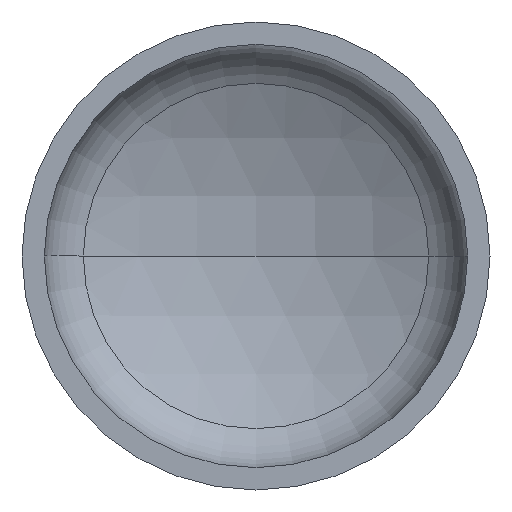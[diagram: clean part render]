
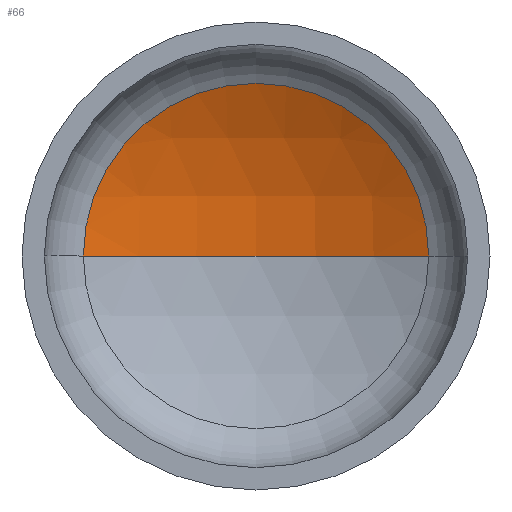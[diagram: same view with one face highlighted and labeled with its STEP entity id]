
A CAD part, front view. The second image highlights one B-rep face of the part: STEP entity #66.
In plain terms, the highlighted spherical face has radius 284 mm.
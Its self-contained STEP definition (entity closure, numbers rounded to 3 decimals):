
#2 = DIRECTION ( 'NONE',  ( -1., 0., 0. ) ) ;
#7 = DIRECTION ( 'NONE',  ( 1., 0., 0. ) ) ;
#11 = DIRECTION ( 'NONE',  ( 0., 0., 1. ) ) ;
#14 = SPHERICAL_SURFACE ( 'NONE', #132, 284. ) ;
#22 = CARTESIAN_POINT ( 'NONE',  ( 0., -148.094, 0. ) ) ;
#38 = VERTEX_POINT ( 'NONE', #248 ) ;
#66 = ADVANCED_FACE ( 'NONE', ( #189 ), #14, .F. ) ;
#85 = ORIENTED_EDGE ( 'NONE', *, *, #153, .T. ) ;
#90 = ORIENTED_EDGE ( 'NONE', *, *, #157, .F. ) ;
#94 = VERTEX_POINT ( 'NONE', #231 ) ;
#99 = AXIS2_PLACEMENT_3D ( 'NONE', #22, #11, #7 ) ;
#105 = AXIS2_PLACEMENT_3D ( 'NONE', #139, #318, #2 ) ;
#106 = EDGE_LOOP ( 'NONE', ( #90, #122, #85 ) ) ;
#109 = AXIS2_PLACEMENT_3D ( 'NONE', #214, #197, #198 ) ;
#122 = ORIENTED_EDGE ( 'NONE', *, *, #156, .T. ) ;
#132 = AXIS2_PLACEMENT_3D ( 'NONE', #246, #243, #242 ) ;
#139 = CARTESIAN_POINT ( 'NONE',  ( 0., -148.094, 0. ) ) ;
#153 = EDGE_CURVE ( 'NONE', #38, #196, #234, .T. ) ;
#156 = EDGE_CURVE ( 'NONE', #94, #38, #170, .T. ) ;
#157 = EDGE_CURVE ( 'NONE', #94, #196, #346, .T. ) ;
#170 = CIRCLE ( 'NONE', #105, 284. ) ;
#189 = FACE_OUTER_BOUND ( 'NONE', #106, .T. ) ;
#196 = VERTEX_POINT ( 'NONE', #267 ) ;
#197 = DIRECTION ( 'NONE',  ( 0., -1., 0. ) ) ;
#198 = DIRECTION ( 'NONE',  ( 1., 0., 0. ) ) ;
#214 = CARTESIAN_POINT ( 'NONE',  ( 0., 103.778, 0. ) ) ;
#231 = CARTESIAN_POINT ( 'NONE',  ( 0., 135.906, 0. ) ) ;
#234 = CIRCLE ( 'NONE', #109, 131.21 ) ;
#242 = DIRECTION ( 'NONE',  ( -1., 0., 0. ) ) ;
#243 = DIRECTION ( 'NONE',  ( 0., 0., -1. ) ) ;
#246 = CARTESIAN_POINT ( 'NONE',  ( 0., -148.094, 0. ) ) ;
#248 = CARTESIAN_POINT ( 'NONE',  ( 131.21, 103.778, 0. ) ) ;
#267 = CARTESIAN_POINT ( 'NONE',  ( -131.21, 103.778, 0. ) ) ;
#318 = DIRECTION ( 'NONE',  ( 0., 0., -1. ) ) ;
#346 = CIRCLE ( 'NONE', #99, 284. ) ;
